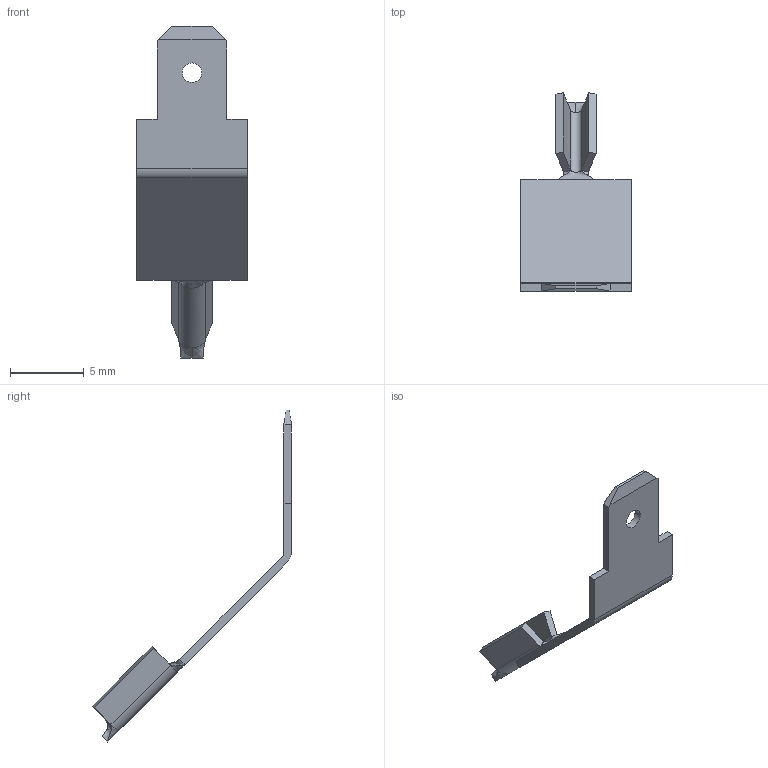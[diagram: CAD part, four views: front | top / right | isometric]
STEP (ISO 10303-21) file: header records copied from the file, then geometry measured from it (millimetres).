
FILE_DESCRIPTION((''),'2;1');
FILE_NAME('C-1742262-1','2019-09-26T07:18:05',('workeradm'),('TE Connectivity Ltd.'),'CREO PARAMETRIC BY PTC INC, 2019030','CREO PARAMETRIC BY PTC INC, 2019030','');
FILE_SCHEMA(('AUTOMOTIVE_DESIGN { 1 0 10303 214 1 1 1 1 }'));
Length unit declared in the file: millimetre
Products named in the file (1): C-1742262-1
Bounding box: 7.49 x 13.51 x 22.56 mm (x, y, z)
Volume: 82.1 mm3; surface area: 364.3 mm2
Topology: 1 solids, 1 shells, 46 faces, 123 edges, 79 vertices
Faces by surface type: plane 28, bspline 12, cylinder 6
Entity records: 2123 total; most frequent: CARTESIAN_POINT 813, ORIENTED_EDGE 246, DIRECTION 196, EDGE_CURVE 123, VECTOR 86, LINE 86, VERTEX_POINT 79, AXIS2_PLACEMENT_3D 55
